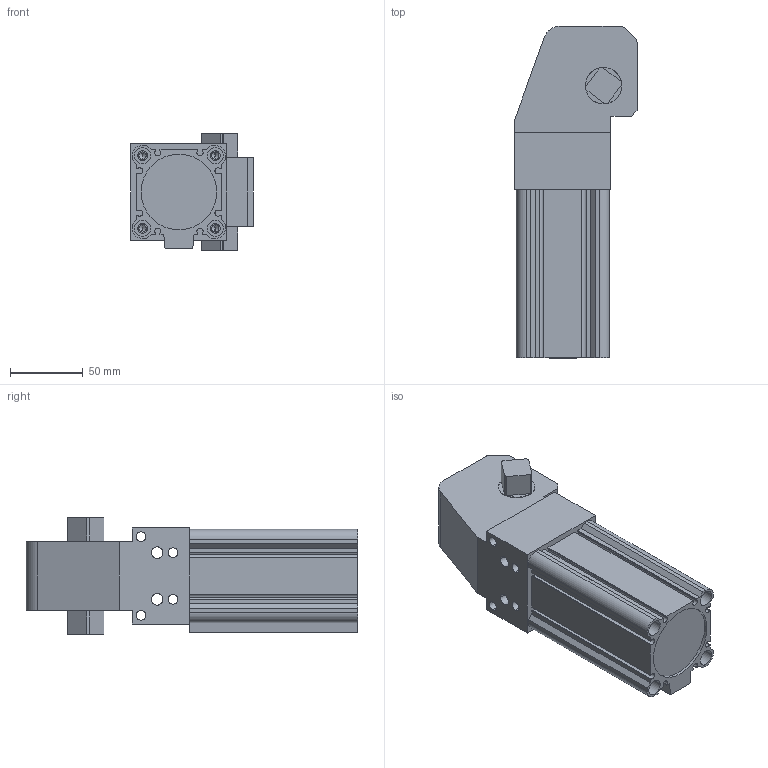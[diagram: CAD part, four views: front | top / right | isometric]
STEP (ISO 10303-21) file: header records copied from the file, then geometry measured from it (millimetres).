
FILE_DESCRIPTION (( 'STEP AP203' ), '1' );
FILE_NAME ('BC-50-S-98.STEP', '2017-02-15T11:15:48', ( '' ), ( '' ), 'SwSTEP 2.0', 'SolidWorks 2012', '' );
FILE_SCHEMA (( 'CONFIG_CONTROL_DESIGN' ));
Length unit declared in the file: millimetre
Products named in the file (4): BC-50-S-98; S-25-75; BC50S-2; BC50S-1
Assembly tree (3 placements, depth 2):
  BC-50-S-98
    BC50S-1
    BC50S-2
    S-25-75
Bounding box: 84 x 228 x 80 mm (x, y, z)
Volume: 635009.5 mm3; surface area: 131711.6 mm2
Topology: 3 solids, 3 shells, 205 faces, 532 edges, 344 vertices
Faces by surface type: plane 98, cylinder 95, cone 12
Entity records: 6822 total; most frequent: CARTESIAN_POINT 1215, DIRECTION 1132, ORIENTED_EDGE 1048, EDGE_CURVE 524, AXIS2_PLACEMENT_3D 405, VERTEX_POINT 344, LINE 322, VECTOR 322
